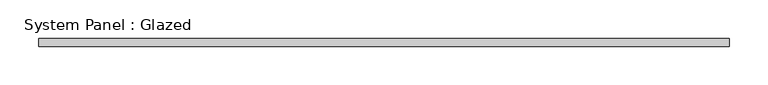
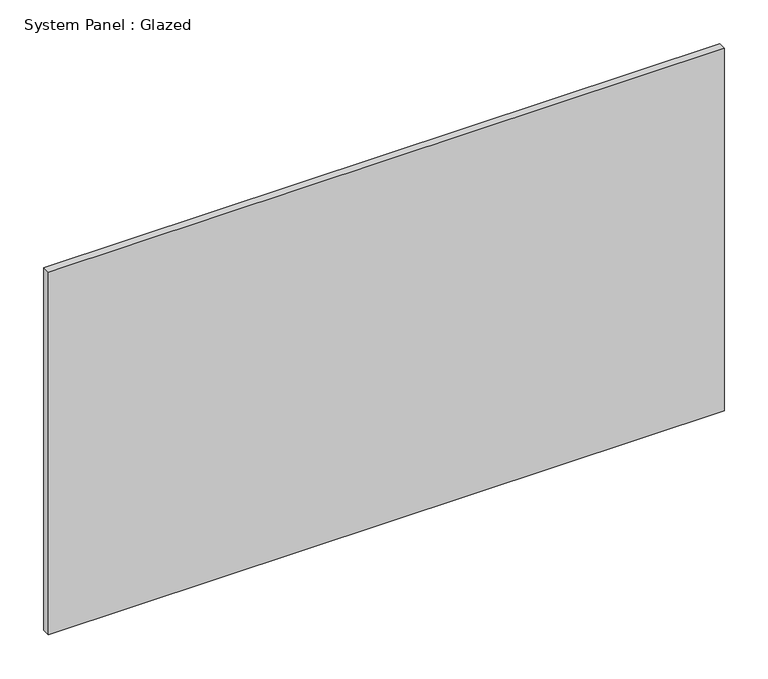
"""IFC4 building model written with IfcOpenShell, lengths in millimetres: plate geometry, System Panel : Glazed."""

import ifcopenshell
import ifcopenshell.guid

model = None  # the IFC model being written
_history = None  # IfcOwnerHistory: only IFC2X3 demands one
_inside = {}  # id of a spatial element -> (the spatial element, [elements in it])
_under = {}  # id of a project, library or spatial element -> (it, [spatial elements below it])
_declared = {}  # id of a project -> (the project, [libraries it declares])
_typed = {}  # id of a type object -> (the type object, [elements of that type])
_made_of = {}  # id of a material, layer set ... -> (it, [elements and type objects made of it])


def new_model(schema):
    """Start an empty IFC model of exactly this schema.

    Asked for "IFC4X3", IfcOpenShell would pick the latest addendum, in which some entities
    have other attributes; the version numbers below select the first issue.
    IFC2X3 requires an IfcOwnerHistory on every rooted entity: one is made here for all.
    """
    global model, _history
    if schema == "IFC4X3":
        model = ifcopenshell.file(schema_version=(4, 3, 0, 0))
    else:
        model = ifcopenshell.file(schema=schema)
    _inside.clear()
    _under.clear()
    _declared.clear()
    _typed.clear()
    _made_of.clear()
    _history = None
    if model.schema == "IFC2X3":
        org = make("IfcOrganization", Name="unknown")
        user = make(
            "IfcPersonAndOrganization",
            ThePerson=make("IfcPerson", FamilyName="unknown"),
            TheOrganization=org,
        )
        app = make(
            "IfcApplication",
            ApplicationDeveloper=org,
            Version="unknown",
            ApplicationFullName="unknown",
            ApplicationIdentifier="unknown",
        )
        _history = make(
            "IfcOwnerHistory",
            OwningUser=user,
            OwningApplication=app,
            ChangeAction="ADDED",
            CreationDate=0,
        )
    return model


def make(cls, **values):
    """One entity of the class cls with the attributes given. An attribute that is None is left unset."""
    return model.create_entity(
        cls, **{name: value for name, value in values.items() if value is not None}
    )


def rooted(cls, **values):
    """An entity with a GlobalId (a new one), such as an element, a storey or a relation."""
    return make(cls, GlobalId=ifcopenshell.guid.new(), OwnerHistory=_history, **values)


def si_unit(unit_type, name, prefix=None):
    """IfcSIUnit, for example si_unit("LENGTHUNIT", "METRE", prefix="MILLI")."""
    return make("IfcSIUnit", UnitType=unit_type, Prefix=prefix, Name=name)


def assignment(units):
    """IfcUnitAssignment: the units of a project."""
    return None if units is None else make("IfcUnitAssignment", Units=units)


def point(xyz):
    """IfcCartesianPoint."""
    return None if xyz is None else make("IfcCartesianPoint", Coordinates=xyz)


def direction(xyz):
    """IfcDirection."""
    return None if xyz is None else make("IfcDirection", DirectionRatios=xyz)


def frame(location, z_axis=None, x_axis=None):
    """IfcAxis2Placement3D, a coordinate frame: its origin and axes. An axis left out is left unset."""
    return make(
        "IfcAxis2Placement3D",
        Location=point(location),
        Axis=direction(z_axis),
        RefDirection=direction(x_axis),
    )


def origin():
    """The frame at (0, 0, 0) with its axes left unset."""
    return frame((0.0, 0.0, 0.0))


def origin_with_axes():
    """The frame at (0, 0, 0) with the z axis (0, 0, 1) and the x axis (1, 0, 0) written out."""
    return frame((0.0, 0.0, 0.0), z_axis=(0.0, 0.0, 1.0), x_axis=(1.0, 0.0, 0.0))


def place(relative_to, where):
    """IfcLocalPlacement: puts the frame where relative to a parent placement (None: the world)."""
    return make(
        "IfcLocalPlacement", PlacementRelTo=relative_to, RelativePlacement=where
    )


def context(
    kind, dimensions, precision=None, world=None, true_north=None, identifier=None
):
    """IfcGeometricRepresentationContext, for example the 3D "Model" context."""
    return make(
        "IfcGeometricRepresentationContext",
        ContextIdentifier=identifier,
        ContextType=kind,
        CoordinateSpaceDimension=dimensions,
        Precision=precision,
        WorldCoordinateSystem=world,
        TrueNorth=true_north,
    )


def project(units=None, contexts=None):
    """IfcProject with its units and contexts."""
    return rooted(
        "IfcProject",
        Name="project",
        RepresentationContexts=contexts,
        UnitsInContext=assignment(units),
    )


def spatial(cls, under=None, at=None, **own):
    """A site, building, storey or space (cls), placed at a placement, below another one or the project."""
    s = rooted(cls, ObjectPlacement=at, **own)
    if under is not None:
        _under.setdefault(under.id(), (under, []))[1].append(s)
    return s


def polyline(points):
    """IfcPolyline through the points."""
    return make("IfcPolyline", Points=[point(p) for p in points])


def outline(outer, holes=None, kind="AREA"):
    """IfcArbitraryClosedProfileDef: a profile drawn as a closed curve; with holes, ...WithVoids."""
    if holes is None:
        return make("IfcArbitraryClosedProfileDef", ProfileType=kind, OuterCurve=outer)
    return make(
        "IfcArbitraryProfileDefWithVoids",
        ProfileType=kind,
        OuterCurve=outer,
        InnerCurves=holes,
    )


def extrude(swept, where, along, depth):
    """IfcExtrudedAreaSolid: the profile swept, set in the frame where, extruded along a direction by depth."""
    return make(
        "IfcExtrudedAreaSolid",
        SweptArea=swept,
        Position=where,
        ExtrudedDirection=direction(along),
        Depth=depth,
    )


def shape(context_of_items, identifier, shape_type, items):
    """IfcShapeRepresentation: the items that make up one representation, for example the "Body"."""
    return make(
        "IfcShapeRepresentation",
        ContextOfItems=context_of_items,
        RepresentationIdentifier=identifier,
        RepresentationType=shape_type,
        Items=items,
    )


def source(mapping_origin, context_of_items, identifier, shape_type, items):
    """IfcRepresentationMap: a shape defined once, which mapped items show again and again."""
    return make(
        "IfcRepresentationMap",
        MappingOrigin=mapping_origin,
        MappedRepresentation=shape(context_of_items, identifier, shape_type, items),
    )


def transform(
    local_origin,
    x_axis=None,
    y_axis=None,
    z_axis=None,
    scale=None,
    scale2=None,
    scale3=None,
    uniform=True,
):
    """IfcCartesianTransformationOperator3D, or its non-uniform kind. x_axis, y_axis, z_axis: its Axis1, 2, 3."""
    if uniform:
        return make(
            "IfcCartesianTransformationOperator3D",
            Axis1=direction(x_axis),
            Axis2=direction(y_axis),
            LocalOrigin=point(local_origin),
            Scale=scale,
            Axis3=direction(z_axis),
        )
    return make(
        "IfcCartesianTransformationOperator3DnonUniform",
        Axis1=direction(x_axis),
        Axis2=direction(y_axis),
        LocalOrigin=point(local_origin),
        Scale=scale,
        Axis3=direction(z_axis),
        Scale2=scale2,
        Scale3=scale3,
    )


def mapped(mapping_source, mapping_target):
    """IfcMappedItem: shows the shape of a source again, moved by a transform."""
    return make(
        "IfcMappedItem", MappingSource=mapping_source, MappingTarget=mapping_target
    )


def made_of(thing, what):
    """Note that an element or type object is made of a material, layer set ...; save() writes the relation."""
    if what is not None:
        _made_of.setdefault(what.id(), (what, []))[1].append(thing)
    return thing


def element(
    cls,
    number,
    at=None,
    inside=None,
    cuts=None,
    type_object=None,
    material=None,
    context=None,
    identifier="Body",
    shape_type=None,
    held_by="IfcProductDefinitionShape",
    body=None,
    shapes=None,
    **own,
):
    """One element of the class cls, such as IfcWall. Its Tag is "e" and its number.

    at: its placement. inside: the storey or other place that contains it. cuts: it is an
    opening in that element (IfcRelVoidsElement). A single representation is given by context,
    identifier, shape_type and body (its items); several are given by shapes. held_by: the class
    of the entity that holds the representations. save() writes the other relations.
    """
    e = rooted(cls, Tag="e%d" % number, ObjectPlacement=at, **own)
    if body is not None:
        shapes = [shape(context, identifier, shape_type, body)]
    if shapes is not None:
        e.Representation = make(held_by, Representations=shapes)
    if inside is not None:
        _inside.setdefault(inside.id(), (inside, []))[1].append(e)
    if cuts is not None:
        rooted(
            "IfcRelVoidsElement", RelatingBuildingElement=cuts, RelatedOpeningElement=e
        )
    if type_object is not None:
        _typed.setdefault(type_object.id(), (type_object, []))[1].append(e)
    return made_of(e, material)


def aggregate(whole, parts):
    """IfcRelAggregates: a whole, such as a stair, and the parts it consists of."""
    return rooted("IfcRelAggregates", RelatingObject=whole, RelatedObjects=parts)


def save(model, path):
    """Write the relations noted so far, then the file.

    IfcRelAggregates (storeys below a building ...), IfcRelContainedInSpatialStructure (elements
    in a storey), IfcRelDefinesByType, IfcRelAssociatesMaterial and IfcRelDeclares: one each for
    every whole, place, type object, material and project.
    """
    for whole, parts in _under.values():
        aggregate(whole, parts)
    for where, things in _inside.values():
        rooted(
            "IfcRelContainedInSpatialStructure",
            RelatedElements=things,
            RelatingStructure=where,
        )
    for kind, things in _typed.values():
        rooted("IfcRelDefinesByType", RelatedObjects=things, RelatingType=kind)
    for what, things in _made_of.values():
        rooted("IfcRelAssociatesMaterial", RelatedObjects=things, RelatingMaterial=what)
    for by, libraries in _declared.values():
        rooted("IfcRelDeclares", RelatingContext=by, RelatedDefinitions=libraries)
    model.write(path)


def system_panel_glazed_dea605e0(model_context):
    return source(origin(), model_context, "Body", "SweptSolid", [
        extrude(outline(polyline([(445.0715535, -5.0), (-445.0715535, -5.0), (-445.0715535, 5.0), (445.0715535, 5.0), (445.0715535, -5.0)])), origin_with_axes(), (0.0, 0.0, 1.0), 505.0),
    ])


if __name__ == "__main__":
    model = new_model("IFC4")
    model_context = context("Model", 3, world=origin())
    ifc_project = project(units=[si_unit("LENGTHUNIT", "METRE", prefix="MILLI")], contexts=[model_context])
    site = spatial("IfcSite", under=ifc_project)
    building = spatial("IfcBuilding", under=site)
    placement = place(None, origin())
    system_panel_glazed_shape = system_panel_glazed_dea605e0(model_context)
    element("IfcPlate", 1, ObjectType="System Panel : Glazed", at=placement, inside=building, context=model_context, shape_type="MappedRepresentation", body=[
        mapped(system_panel_glazed_shape, transform((0.0, 0.0, 0.0), x_axis=(1.0, 0.0, 0.0), y_axis=(0.0, 1.0, 0.0), z_axis=(0.0, 0.0, 1.0))),
    ])
    save(model, "model.ifc")
